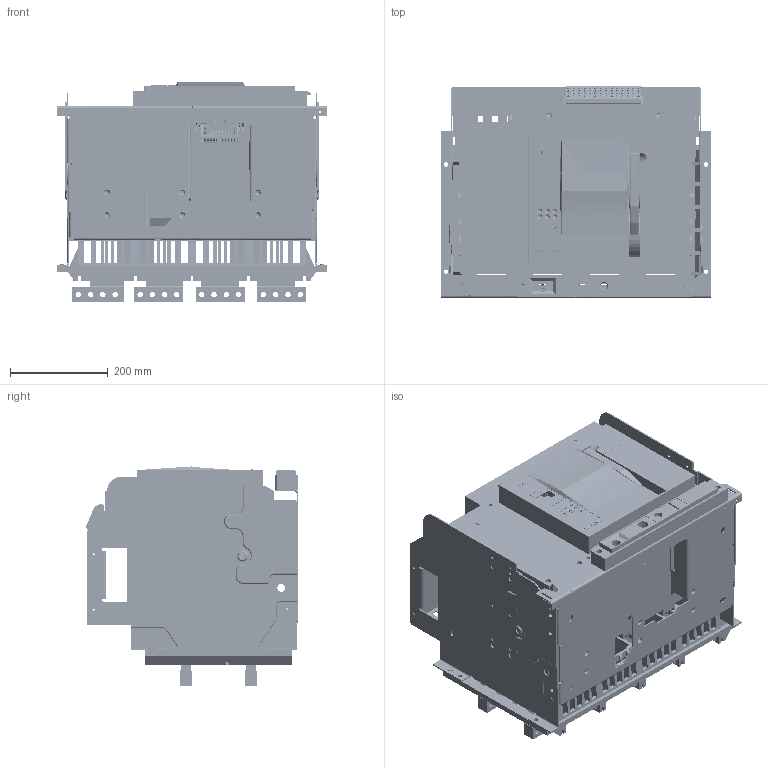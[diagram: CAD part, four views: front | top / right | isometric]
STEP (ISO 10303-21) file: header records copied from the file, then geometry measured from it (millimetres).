
FILE_DESCRIPTION((''),'2;1');
FILE_NAME('NA8G-4000-4000-4P-DO-SC_ASM','2020-01-15T17:23:37',('lcc'),(''),'CREO PARAMETRIC BY PTC INC, 2018020','CREO PARAMETRIC BY PTC INC, 2018020','');
FILE_SCHEMA(('CONFIG_CONTROL_DESIGN','SHAPE_APPEARANCE_LAYERS_GROUPS'));
Products named in the file (190): 8050A0306013; 8050A0306010; 8050A0306011; 8300A03040012; 8-300-168; 5ZTD-020-489V; 5ZTD-024-176; 5024A0203010; 8050A0306009; 8940A0310001; 5050A1527001_ASM; 8206A0312073; 8206A0312079; 8206A0312063; 8206A0312080; 8206A0312067; 8206A0312074; 8206A0312072; 8206A0312061; 8206A0312069; 5050A1516007_ASM; 8231A0306002; 8441A0101005; 8860A1424011; 5441A1526003_ASM; GBT896-3; GBT896-6; 8288A0820028_AF0; 8288A0820030_AF0; 5050A1526007_ASM; 8050A0307001; 8206A0312082; 8206A0312075; 5050A1516008_ASM; 8441A0101006; 8860A1424010; 5441A1526004_ASM; 8206A0312078; 8235A0306002; GBT93-3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
Assembly tree (312 placements, depth 7):
  NA8G-4000-4000-4P-DO-SC_ASM
    8050A0306013
    8050A0306010
    8050A0306011
    8300A03040012
    8-300-168
    5ZTD-020-489V
    NA8G-4000-4P-BT-SC_ASM
      5ZTD-024-176
      5024A0203010
      NA8G-4000-4P-JG_ASM
        5050A1526007_ASM
          5050A1516007_ASM
            5050A1527001_ASM
              8050A0306009
              8940A0310001
            8206A0312073  x3
            8206A0312079
            8206A0312063
            8206A0312080  x2
            8206A0312067
            8206A0312074  x2
            8206A0312072
            8206A0312061
            8206A0312069
          8231A0306002
          5441A1526003_ASM
            8441A0101005
            8860A1424011
          GBT896-3
          GBT896-6
          8288A0820028_AF0
          8288A0820030_AF0
        5050A1526008_ASM
          5050A1516008_ASM
            8050A0307001
            8206A0312082
            8206A0312073  x3
            8206A0312069
            8206A0312075
          5441A1526004_ASM
            8441A0101006
            8860A1424010
          8206A0312078  x2
          8235A0306002
          GBT93-3  x2
          GBT6170-M3  x2
          GBT896-2
          GBT896-3  x2
          GBT896-4  x2
          8288A0820030_AF1
          8288A0820030_AF2
          8288A0820024_AF0
          8288A0820025_AF0
        8206A0312066
        5263A1526005_ASM
          8263A0312002
          8210A0411007
        5263A1526004_ASM
          8263A0312001
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Bounding box: 552 x 433.03 x 447.5 mm (x, y, z)
Volume: 15256396.2 mm3; surface area: 6485391.1 mm2
Topology: 460 solids, 549 shells, 30337 faces, 81691 edges, 52978 vertices
Faces by surface type: plane 20532, cylinder 6579, cone 1450, bspline 1007, torus 551, sphere 202, extrusion 16
Entity records: 617186 total; most frequent: CARTESIAN_POINT 148166, ORIENTED_EDGE 77079, DIRECTION 74996, EDGE_CURVE 38655, PRESENTATION_STYLE_ASSIGNMENT 30455, STYLED_ITEM 30146, VECTOR 29044, LINE 29028
